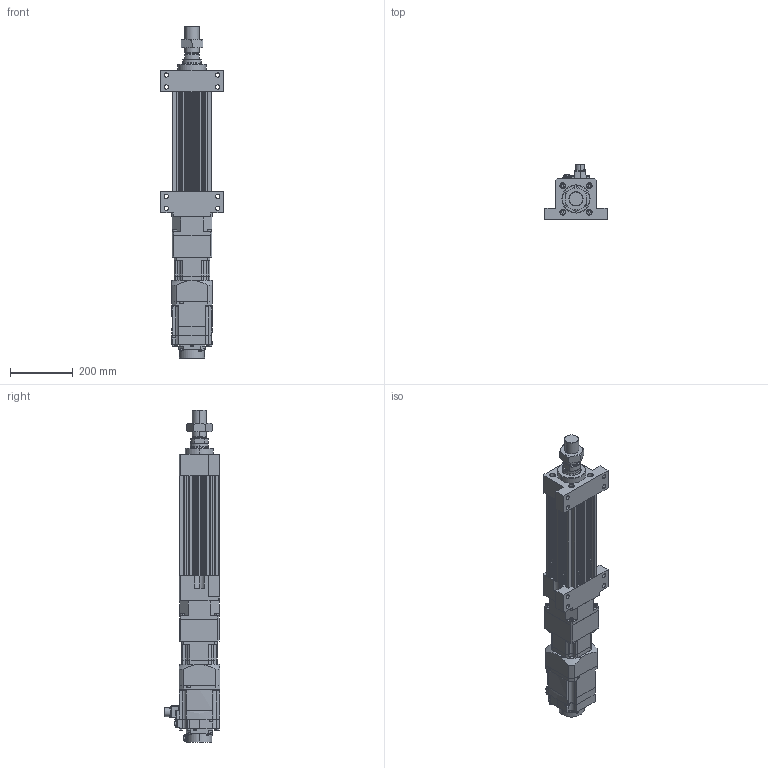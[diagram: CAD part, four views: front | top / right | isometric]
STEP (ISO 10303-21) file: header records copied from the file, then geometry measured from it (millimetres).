
FILE_DESCRIPTION (( 'STEP AP203' ), '1' );
FILE_NAME ('HES130NS(FS)(HS)-S100-W015G00-M-FFB.STEP', '2026-06-10T06:13:24', ( 'tms' ), ( '' ), 'SwSTEP 2.0', 'SolidWorks 2013', '' );
FILE_SCHEMA (( 'CONFIG_CONTROL_DESIGN' ));
Length unit declared in the file: millimetre
Products named in the file (8): HG-SR152B; M45X1.5P; AB1151; AB1152; HES130-S-G120; HES130-FFB-100; HES130-M-ROD-100; HES130NS(FS)(HS)-S100-W015G00-M-FFB
Assembly tree (7 placements, depth 2):
  HES130NS(FS)(HS)-S100-W015G00-M-FFB
    HES130-FFB-100
    HES130-M-ROD-100
    M45X1.5P
    HES130-S-G120
    AB1151
    AB1152
    HG-SR152B
Bounding box: 200 x 177.49 x 1062 mm (x, y, z)
Volume: 8628540.8 mm3; surface area: 1028893.8 mm2
Topology: 5 solids, 12 shells, 1246 faces, 3164 edges, 2063 vertices
Faces by surface type: plane 586, cylinder 572, cone 74, bspline 10, torus 4
Entity records: 39589 total; most frequent: CARTESIAN_POINT 7596, DIRECTION 6833, ORIENTED_EDGE 6300, EDGE_CURVE 3160, AXIS2_PLACEMENT_3D 2521, VERTEX_POINT 2063, VECTOR 1791, LINE 1791
